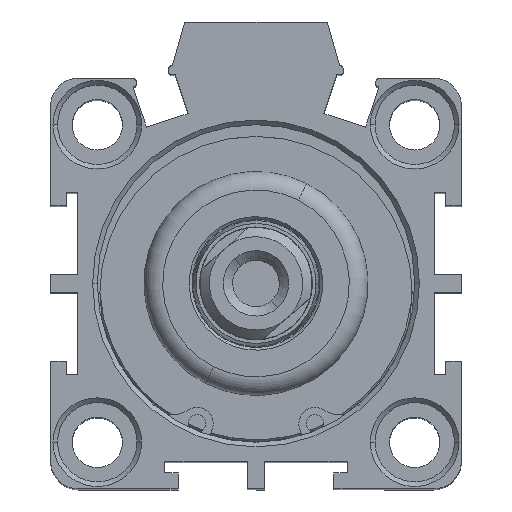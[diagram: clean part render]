
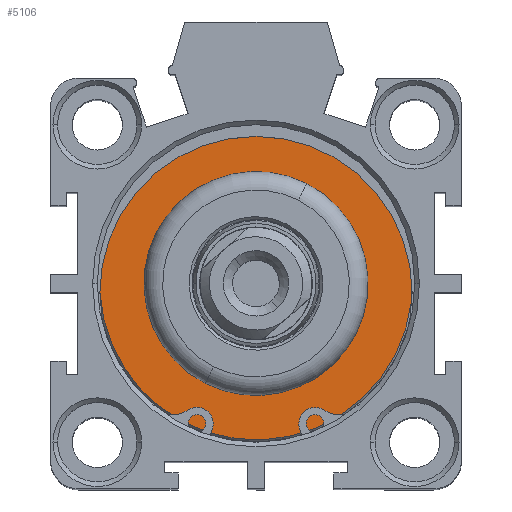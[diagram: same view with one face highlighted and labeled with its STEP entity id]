
A CAD part, top view. The second image highlights one B-rep face of the part: STEP entity #5106.
In plain terms, the highlighted planar face has unit normal (0, 0, 1) as drawn and (1, 0, 0) by its records, which use the part's own axes.
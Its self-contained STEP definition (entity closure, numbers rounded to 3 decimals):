
#254 = CIRCLE ( 'NONE', #14721, 12. ) ;
#326 = DIRECTION ( 'NONE',  ( 0., 0., 1. ) ) ;
#473 = DIRECTION ( 'NONE',  ( -1., 0., 0. ) ) ;
#621 = PLANE ( 'NONE',  #14355 ) ;
#1667 = ORIENTED_EDGE ( 'NONE', *, *, #9140, .F. ) ;
#2538 = ORIENTED_EDGE ( 'NONE', *, *, #7672, .T. ) ;
#3744 = EDGE_LOOP ( 'NONE', ( #6296, #2538 ) ) ;
#4475 = DIRECTION ( 'NONE',  ( -1., 0., 0. ) ) ;
#5106 = ADVANCED_FACE ( 'NONE', ( #8889, #15226 ), #621, .F. ) ;
#5510 = VERTEX_POINT ( 'NONE', #11263 ) ;
#6296 = ORIENTED_EDGE ( 'NONE', *, *, #14580, .T. ) ;
#7555 = CARTESIAN_POINT ( 'NONE',  ( 4.5, 0., -16.75 ) ) ;
#7672 = EDGE_CURVE ( 'NONE', #11342, #16475, #254, .T. ) ;
#8294 = CARTESIAN_POINT ( 'NONE',  ( 4.5, 0., 0. ) ) ;
#8889 = FACE_OUTER_BOUND ( 'NONE', #19112, .T. ) ;
#9140 = EDGE_CURVE ( 'NONE', #5510, #18762, #13425, .T. ) ;
#10199 = CIRCLE ( 'NONE', #13562, 16.75 ) ;
#11263 = CARTESIAN_POINT ( 'NONE',  ( 4.5, 0., 16.75 ) ) ;
#11342 = VERTEX_POINT ( 'NONE', #18877 ) ;
#11724 = EDGE_CURVE ( 'NONE', #18762, #5510, #10199, .T. ) ;
#11759 = DIRECTION ( 'NONE',  ( -1., 0., 0. ) ) ;
#12336 = CARTESIAN_POINT ( 'NONE',  ( 4.5, 0., 0. ) ) ;
#12758 = CARTESIAN_POINT ( 'NONE',  ( 4.5, 16.75, 0. ) ) ;
#13247 = AXIS2_PLACEMENT_3D ( 'NONE', #8294, #473, #18055 ) ;
#13425 = CIRCLE ( 'NONE', #18321, 16.75 ) ;
#13562 = AXIS2_PLACEMENT_3D ( 'NONE', #12336, #16862, #18355 ) ;
#13621 = CARTESIAN_POINT ( 'NONE',  ( 4.5, 0., 12. ) ) ;
#14355 = AXIS2_PLACEMENT_3D ( 'NONE', #12758, #11759, #14372 ) ;
#14372 = DIRECTION ( 'NONE',  ( 0., 0., 1. ) ) ;
#14580 = EDGE_CURVE ( 'NONE', #16475, #11342, #20208, .T. ) ;
#14721 = AXIS2_PLACEMENT_3D ( 'NONE', #15532, #17159, #326 ) ;
#14742 = ORIENTED_EDGE ( 'NONE', *, *, #11724, .F. ) ;
#15183 = CARTESIAN_POINT ( 'NONE',  ( 4.5, 0., 0. ) ) ;
#15226 = FACE_BOUND ( 'NONE', #3744, .T. ) ;
#15470 = DIRECTION ( 'NONE',  ( 0., 0., 1. ) ) ;
#15532 = CARTESIAN_POINT ( 'NONE',  ( 4.5, 0., 0. ) ) ;
#16475 = VERTEX_POINT ( 'NONE', #13621 ) ;
#16862 = DIRECTION ( 'NONE',  ( -1., 0., 0. ) ) ;
#17159 = DIRECTION ( 'NONE',  ( -1., 0., 0. ) ) ;
#18055 = DIRECTION ( 'NONE',  ( 0., 0., 1. ) ) ;
#18321 = AXIS2_PLACEMENT_3D ( 'NONE', #15183, #4475, #15470 ) ;
#18355 = DIRECTION ( 'NONE',  ( 0., 0., 1. ) ) ;
#18762 = VERTEX_POINT ( 'NONE', #7555 ) ;
#18877 = CARTESIAN_POINT ( 'NONE',  ( 4.5, 0., -12. ) ) ;
#19112 = EDGE_LOOP ( 'NONE', ( #1667, #14742 ) ) ;
#20208 = CIRCLE ( 'NONE', #13247, 12. ) ;
